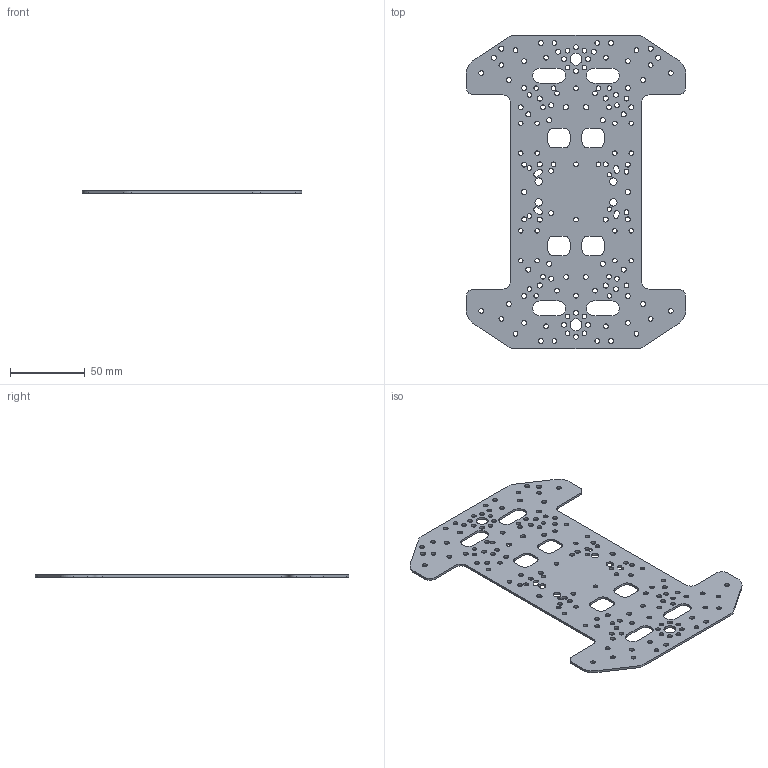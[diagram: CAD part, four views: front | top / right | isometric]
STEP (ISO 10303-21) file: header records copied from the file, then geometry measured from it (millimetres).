
FILE_DESCRIPTION(('FreeCAD Model'),'2;1');
FILE_NAME('Open CASCADE Shape Model','2026-10-28T09:34:43',('FreeCAD'),( 'FreeCAD'),'Open CASCADE STEP processor 7.8','FreeCAD','Unknown');
FILE_SCHEMA(('AUTOMOTIVE_DESIGN { 1 0 10303 214 1 1 1 1 }'));
Length unit declared in the file: millimetre
Products named in the file (1): Open CASCADE STEP translator 7.8 18
Bounding box: 147 x 210 x 1.5 mm (x, y, z)
Volume: 28622.8 mm3; surface area: 42301.5 mm2
Topology: 1 solids, 1 shells, 282 faces, 840 edges, 560 vertices
Faces by surface type: cylinder 208, plane 74
Full cylindrical faces by diameter (mm): 3 x22, 3.2 x90, 3.4 x14, 5 x4, 8 x2
Entity records: 10322 total; most frequent: DIRECTION 1822, CARTESIAN_POINT 1683, ORIENTED_EDGE 1680, EDGE_CURVE 840, AXIS2_PLACEMENT_3D 699, FACE_BOUND 598, EDGE_LOOP 598, VERTEX_POINT 560
